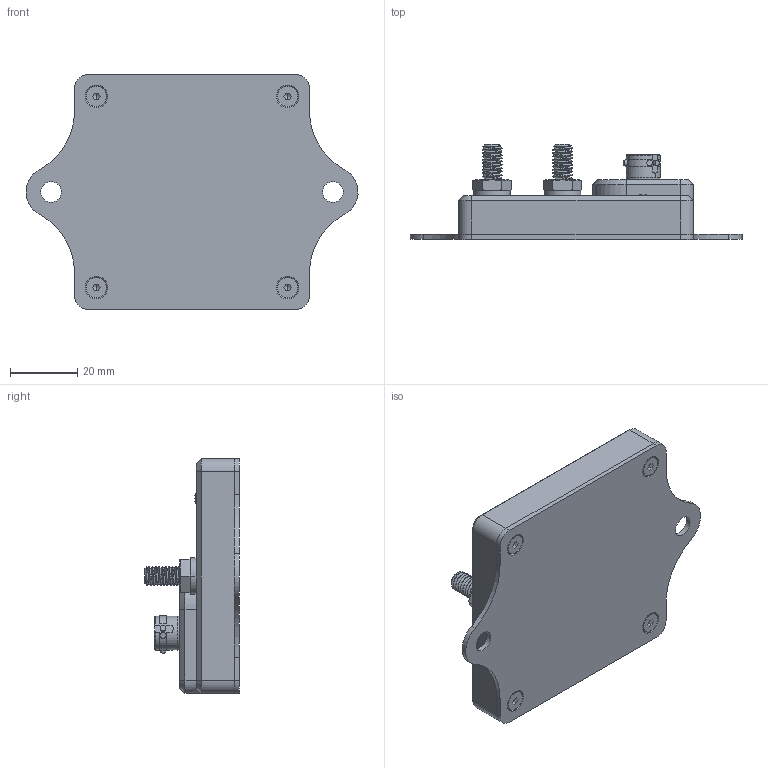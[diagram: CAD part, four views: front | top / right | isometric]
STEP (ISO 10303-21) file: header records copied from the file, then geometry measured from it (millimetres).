
FILE_DESCRIPTION((''),'2;1');
FILE_NAME('MASTER_ASSEMBLY_ASM','2018-11-16T',('Michael.Rasmussen'),(''),'CREO PARAMETRIC BY PTC INC, 2014440','CREO PARAMETRIC BY PTC INC, 2014440','');
FILE_SCHEMA(('CONFIG_CONTROL_DESIGN'));
Products named in the file (11): M6_STUD; 8STA20406PN; PCB_ASSEMBLY_ASM; CASE_TOP; CASE_BOTTOM; PLP2-500; M6_TERMINAL_NUT; DIN7991_M3X10; DIN439_M6; DINENISO7046-2M2X68_8H1; MASTER_ASSEMBLY_ASM
Assembly tree (19 placements, depth 3):
  MASTER_ASSEMBLY_ASM
    PCB_ASSEMBLY_ASM
      M6_STUD  x2
      8STA20406PN
    CASE_TOP
    CASE_BOTTOM
    PLP2-500
    M6_TERMINAL_NUT  x2
    DIN7991_M3X10  x4
    DIN439_M6  x4
    DINENISO7046-2M2X68_8H1  x2
Bounding box: 98.95 x 28.3 x 70 mm (x, y, z)
Volume: 28348.6 mm3; surface area: 33204.7 mm2
Topology: 18 solids, 22 shells, 2840 faces, 7964 edges, 5197 vertices
Faces by surface type: bspline 1914, cylinder 345, cone 281, plane 252, torus 46, sphere 2
Entity records: 138705 total; most frequent: CARTESIAN_POINT 88210, ORIENTED_EDGE 14594, EDGE_CURVE 7305, B_SPLINE_CURVE_WITH_KNOTS 5853, VERTEX_POINT 4800, DIRECTION 3655, EDGE_LOOP 2645, FACE_OUTER_BOUND 2568
